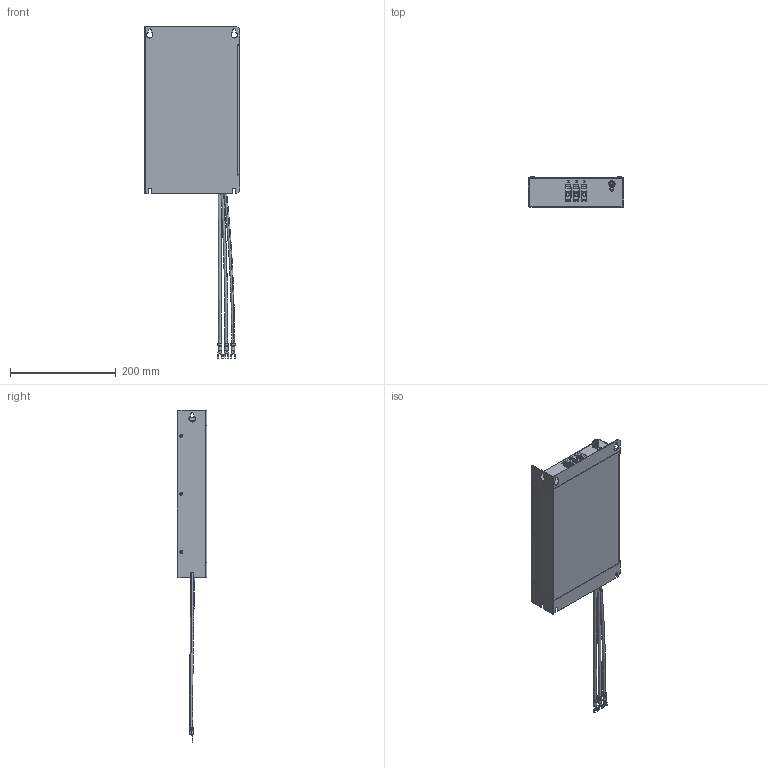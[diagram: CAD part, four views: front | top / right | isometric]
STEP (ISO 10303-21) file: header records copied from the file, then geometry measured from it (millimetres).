
FILE_DESCRIPTION (( 'STEP AP214' ), '1' );
FILE_NAME ('EFR-EFF-3D-41A.STEP', '2026-03-25T10:44:34', ( '' ), ( '' ), 'SwSTEP 2.0', 'SolidWorks 2025', '' );
FILE_SCHEMA (( 'AUTOMOTIVE_DESIGN' ));
Length unit declared in the file: millimetre
Products named in the file (16): IFI 505 - 42, FHSBMBR; ISO 4035 - M6; BS 4464 - 6.4; 1000-508 Lid2; 3D R2.0(2); KS B 1023 - A  M 6 x 16 - Z; 1000-508.Harness1_1; EFR-EFF-3D-41A; ISO 7091 - ST 6 - 100 HV; #10 Terminal Spade 12 - 10 AWG; 1000-508.Harness1; FH4-832-10; MPT1010; 1000-508 box; 1; Growmet 11.1ID
Assembly tree (29 placements, depth 4):
  EFR-EFF-3D-41A
    3D R2.0(2)
      1000-508.Harness1
        1000-508.Harness1_1
      1000-508 box
      KS B 1023 - A  M 6 x 16 - Z
      1  x4
      MPT1010  x3
      Growmet 11.1ID
      #10 Terminal Spade 12 - 10 AWG  x3
      1000-508 Lid2
      IFI 505 - 42, FHSBMBR  x6
      ISO 4035 - M6  x2
      ISO 7091 - ST 6 - 100 HV  x2
      BS 4464 - 6.4
      FH4-832-10
Bounding box: 180 x 56.46 x 628.96 mm (x, y, z)
Volume: 164304.9 mm3; surface area: 368431.5 mm2
Topology: 23 solids, 174 shells, 3351 faces, 8524 edges, 5524 vertices
Faces by surface type: plane 2639, cylinder 439, cone 158, bspline 73, torus 40, sphere 2
Full cylindrical faces by diameter (mm): 6 x4
Entity records: 43371 total; most frequent: CARTESIAN_POINT 10003, ORIENTED_EDGE 6938, DIRECTION 6281, EDGE_CURVE 3475, VECTOR 2383, LINE 2383, VERTEX_POINT 2251, AXIS2_PLACEMENT_3D 1949
